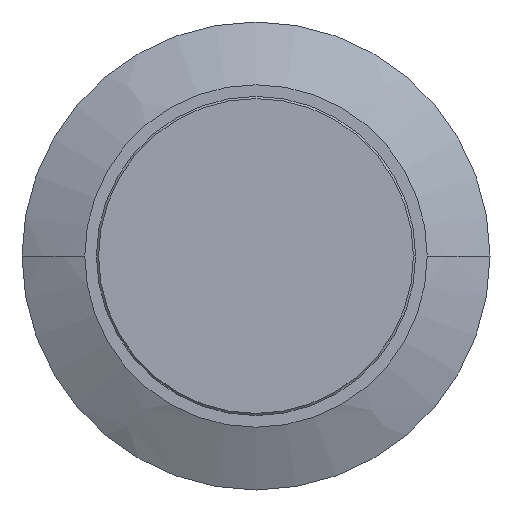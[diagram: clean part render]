
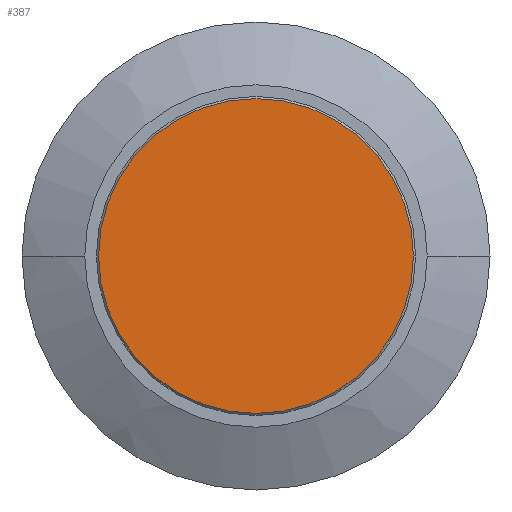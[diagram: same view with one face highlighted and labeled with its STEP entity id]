
A CAD part, left-side view. The second image highlights one B-rep face of the part: STEP entity #387.
In plain terms, the highlighted planar face has unit normal (-1, 0, 0).
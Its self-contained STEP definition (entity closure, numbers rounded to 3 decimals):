
#345=CARTESIAN_POINT('',(-17.66,0.,
0.));
#346=DIRECTION('',(1.,0.,0.));
#347=DIRECTION('',(0.,-1.,0.));
#348=AXIS2_PLACEMENT_3D('',#345,#346,#347);
#359=CARTESIAN_POINT('',(-17.66,0.,
0.));
#360=DIRECTION('',(1.,0.,0.));
#361=DIRECTION('',(0.,1.,0.));
#362=AXIS2_PLACEMENT_3D('',#359,#360,#361);
#372=CARTESIAN_POINT('',(-17.66,-7.4,0.));
#373=CARTESIAN_POINT('',(-17.66,7.4,0.));
#374=VERTEX_POINT('',#372);
#375=VERTEX_POINT('',#373);
#376=CARTESIAN_POINT('',(-17.66,0.,0.));
#377=DIRECTION('',(1.,0.,0.));
#378=DIRECTION('',(0.,-1.,0.));
#379=AXIS2_PLACEMENT_3D('',#376,#377,#378);
#380=PLANE('',#379);
#382=ORIENTED_EDGE('',*,*,#381,.T.);
#384=ORIENTED_EDGE('',*,*,#383,.T.);
#385=EDGE_LOOP('',(#382,#384));
#386=FACE_OUTER_BOUND('',#385,.F.);
#387=ADVANCED_FACE('',(#386),#380,.F.);
#349=CIRCLE('',#348,7.4);
#363=CIRCLE('',#362,7.4);
#381=EDGE_CURVE('',#374,#375,#349,.T.);
#383=EDGE_CURVE('',#375,#374,#363,.T.);
